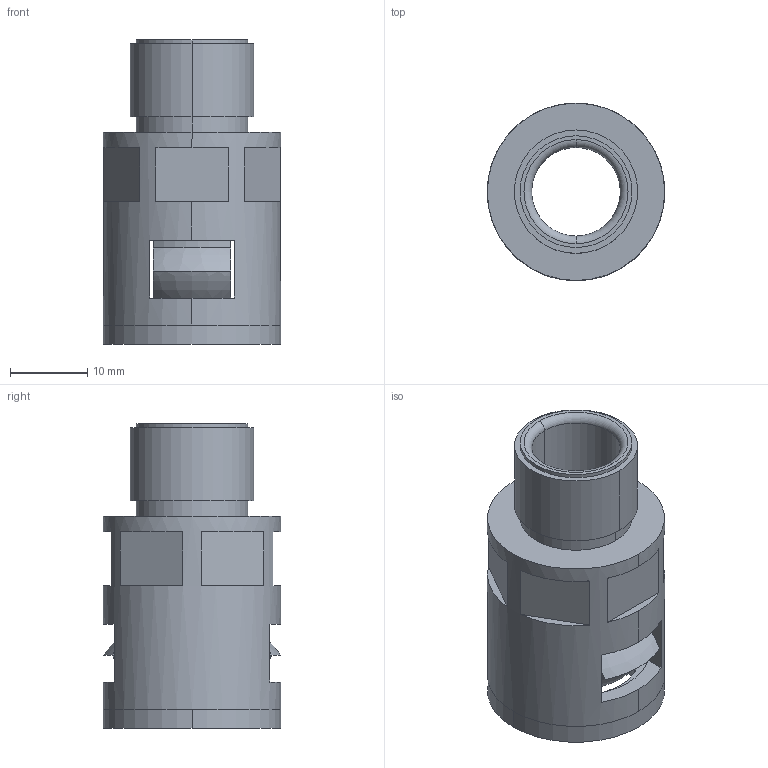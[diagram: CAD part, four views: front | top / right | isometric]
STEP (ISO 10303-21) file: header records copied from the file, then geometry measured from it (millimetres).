
FILE_DESCRIPTION (( 'STEP AP203' ), '1' );
FILE_NAME ('WQG-M16-AD15.8.STEP', '2016-03-31T05:57:04', ( '' ), ( '' ), 'SwSTEP 2.0', 'SolidWorks 2010', '' );
FILE_SCHEMA (( 'CONFIG_CONTROL_DESIGN' ));
Length unit declared in the file: millimetre
Products named in the file (4): WQG-M16-AD15.8-01; NSK-AD15.8; GFD-AD15.8; WQG-M16-AD15.8
Assembly tree (3 placements, depth 2):
  WQG-M16-AD15.8
    NSK-AD15.8
    GFD-AD15.8
    WQG-M16-AD15.8-01
Bounding box: 23 x 23 x 39.5 mm (x, y, z)
Volume: 6322.5 mm3; surface area: 8393.6 mm2
Topology: 3 solids, 3 shells, 154 faces, 374 edges, 232 vertices
Faces by surface type: plane 66, cone 44, cylinder 24, torus 20
Entity records: 5036 total; most frequent: DIRECTION 866, CARTESIAN_POINT 862, ORIENTED_EDGE 748, EDGE_CURVE 374, AXIS2_PLACEMENT_3D 348, VERTEX_POINT 232, CIRCLE 188, EDGE_LOOP 174
